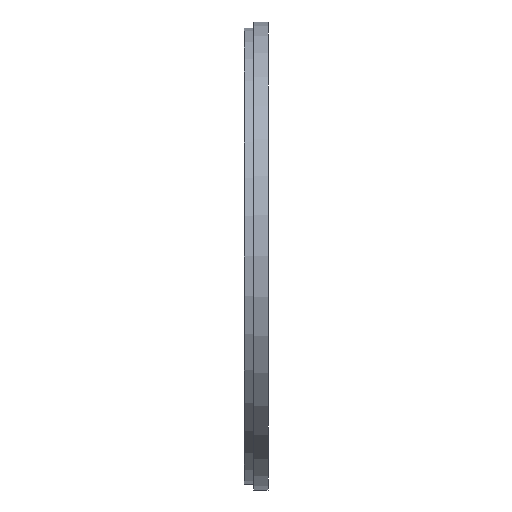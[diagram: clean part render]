
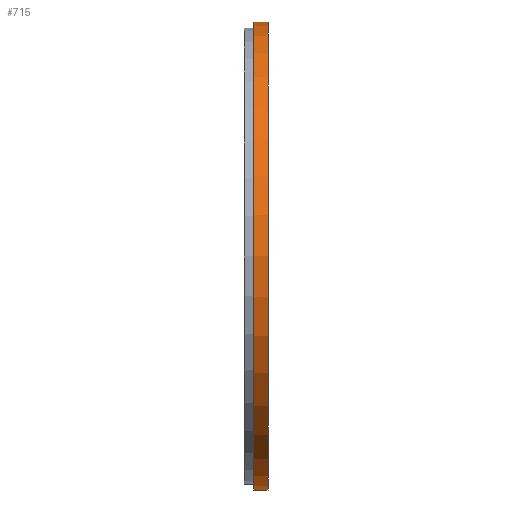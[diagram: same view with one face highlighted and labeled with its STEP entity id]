
A CAD part, left-side view. The second image highlights one B-rep face of the part: STEP entity #715.
In plain terms, the highlighted cylindrical face has radius 19.5 mm (diameter 39 mm), a partial arc.
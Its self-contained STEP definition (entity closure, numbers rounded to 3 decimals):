
#34 = DIRECTION ( 'NONE',  ( 0., -1., 0. ) ) ;
#35 = FACE_OUTER_BOUND ( 'NONE', #1215, .T. ) ;
#80 = AXIS2_PLACEMENT_3D ( 'NONE', #1069, #34, #312 ) ;
#81 = CARTESIAN_POINT ( 'NONE',  ( 0., 0., 0. ) ) ;
#83 = DIRECTION ( 'NONE',  ( 0., 0., 1. ) ) ;
#101 = DIRECTION ( 'NONE',  ( 0., 1., 0. ) ) ;
#206 = CIRCLE ( 'NONE', #1160, 19.5 ) ;
#230 = DIRECTION ( 'NONE',  ( 0., 0., 1. ) ) ;
#312 = DIRECTION ( 'NONE',  ( 0., 0., -1. ) ) ;
#336 = EDGE_CURVE ( 'NONE', #1530, #838, #1022, .T. ) ;
#453 = CARTESIAN_POINT ( 'NONE',  ( 0., 1.2, -19.5 ) ) ;
#457 = DIRECTION ( 'NONE',  ( 0., 1., 0. ) ) ;
#569 = DIRECTION ( 'NONE',  ( 0., -1., 0. ) ) ;
#686 = CARTESIAN_POINT ( 'NONE',  ( 0., 1.2, 19.5 ) ) ;
#701 = ORIENTED_EDGE ( 'NONE', *, *, #1480, .F. ) ;
#703 = LINE ( 'NONE', #686, #774 ) ;
#715 = ADVANCED_FACE ( 'NONE', ( #35 ), #1359, .T. ) ;
#774 = VECTOR ( 'NONE', #569, 1000. ) ;
#838 = VERTEX_POINT ( 'NONE', #1202 ) ;
#920 = VECTOR ( 'NONE', #1676, 1000. ) ;
#935 = ORIENTED_EDGE ( 'NONE', *, *, #1021, .F. ) ;
#949 = EDGE_CURVE ( 'NONE', #838, #955, #1175, .T. ) ;
#955 = VERTEX_POINT ( 'NONE', #1099 ) ;
#1020 = CARTESIAN_POINT ( 'NONE',  ( 0., 1.2, 19.5 ) ) ;
#1021 = EDGE_CURVE ( 'NONE', #1530, #1611, #206, .T. ) ;
#1022 = LINE ( 'NONE', #1265, #920 ) ;
#1069 = CARTESIAN_POINT ( 'NONE',  ( 0., 1.2, 0. ) ) ;
#1099 = CARTESIAN_POINT ( 'NONE',  ( 0., 0., 19.5 ) ) ;
#1100 = ORIENTED_EDGE ( 'NONE', *, *, #949, .T. ) ;
#1160 = AXIS2_PLACEMENT_3D ( 'NONE', #1656, #101, #230 ) ;
#1175 = CIRCLE ( 'NONE', #1340, 19.5 ) ;
#1202 = CARTESIAN_POINT ( 'NONE',  ( 0., 0., -19.5 ) ) ;
#1215 = EDGE_LOOP ( 'NONE', ( #701, #935, #1352, #1100 ) ) ;
#1265 = CARTESIAN_POINT ( 'NONE',  ( 0., 1.2, -19.5 ) ) ;
#1340 = AXIS2_PLACEMENT_3D ( 'NONE', #81, #457, #83 ) ;
#1352 = ORIENTED_EDGE ( 'NONE', *, *, #336, .T. ) ;
#1359 = CYLINDRICAL_SURFACE ( 'NONE', #80, 19.5 ) ;
#1480 = EDGE_CURVE ( 'NONE', #1611, #955, #703, .T. ) ;
#1530 = VERTEX_POINT ( 'NONE', #453 ) ;
#1611 = VERTEX_POINT ( 'NONE', #1020 ) ;
#1656 = CARTESIAN_POINT ( 'NONE',  ( 0., 1.2, 0. ) ) ;
#1676 = DIRECTION ( 'NONE',  ( 0., -1., 0. ) ) ;
